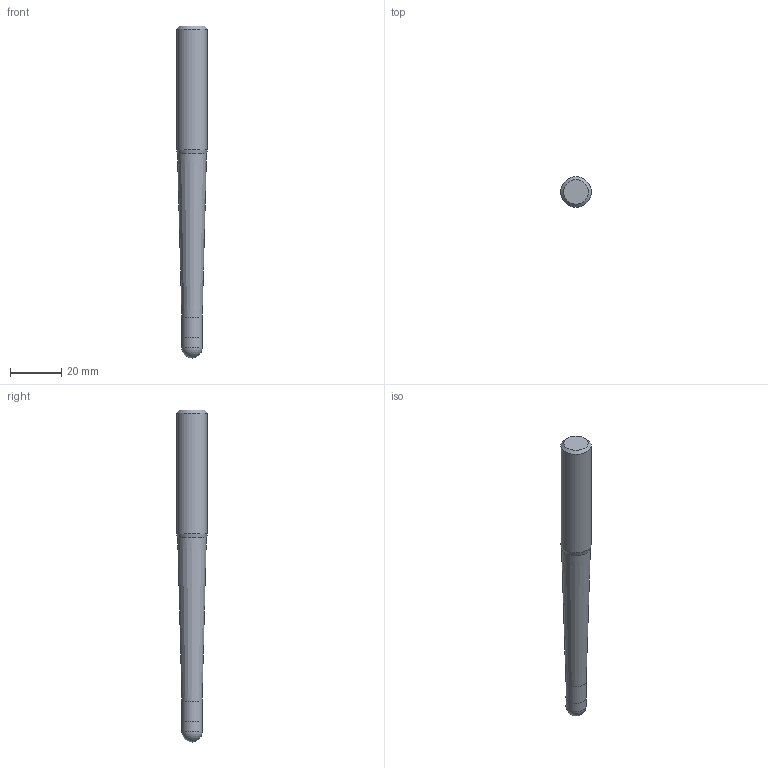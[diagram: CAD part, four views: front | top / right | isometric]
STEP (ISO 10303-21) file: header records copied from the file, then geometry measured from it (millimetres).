
FILE_DESCRIPTION((''),'2;1');
FILE_NAME('C:\Users\nsx150\AppData\Local\Temp\Mastercam 2021\SNAKH10GOD\TEMP.step','2021-10-21T13:34:05',(''),(''),'STEP Write','Mastercam 2021 ... CNC Software, Inc.','');
FILE_SCHEMA(('AUTOMOTIVE_DESIGN'));
Length unit declared in the file: millimetre
Products named in the file (1): None
Bounding box: 12 x 12 x 130 mm (x, y, z)
Volume: 11098.5 mm3; surface area: 4415.2 mm2
Topology: 2 solids, 2 shells, 10 faces, 16 edges, 9 vertices
Faces by surface type: plane 3, cylinder 3, cone 3, sphere 1
Full cylindrical faces by diameter (mm): 7.98 x1, 8 x1, 12 x1
Entity records: 232 total; most frequent: DIRECTION 40, CARTESIAN_POINT 28, AXIS2_PLACEMENT_3D 20, ORIENTED_EDGE 16, EDGE_LOOP 16, STYLED_ITEM 13, ADVANCED_FACE 10, FACE_BOUND 9
